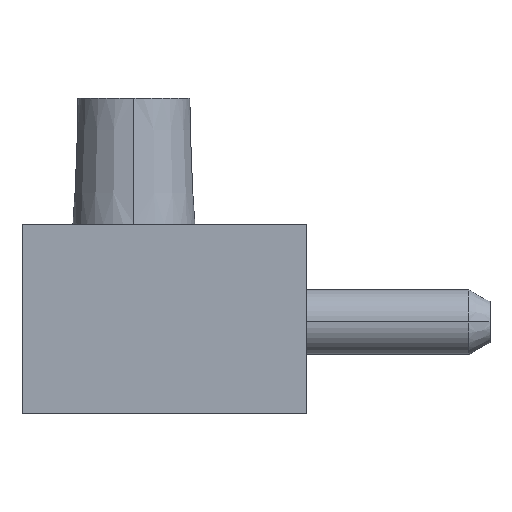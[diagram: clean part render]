
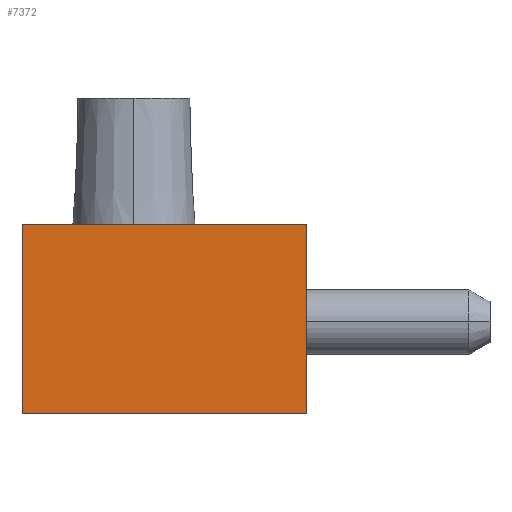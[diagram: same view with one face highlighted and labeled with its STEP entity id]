
A CAD part, top view. The second image highlights one B-rep face of the part: STEP entity #7372.
In plain terms, the highlighted planar face has unit normal (0, 0, 1).
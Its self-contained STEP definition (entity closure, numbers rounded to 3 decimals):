
#904 = EDGE_CURVE ( 'NONE', #946, #908, #3078, .T. ) ;
#908 = VERTEX_POINT ( 'NONE', #3063 ) ;
#946 = VERTEX_POINT ( 'NONE', #3141 ) ;
#1236 = ORIENTED_EDGE ( 'NONE', *, *, #1238, .T. ) ;
#1238 = EDGE_CURVE ( 'NONE', #1240, #946, #3578, .T. ) ;
#1240 = VERTEX_POINT ( 'NONE', #3574 ) ;
#1559 = ORIENTED_EDGE ( 'NONE', *, *, #1836, .T. ) ;
#1836 = EDGE_CURVE ( 'NONE', #7390, #1240, #3961, .T. ) ;
#3063 = CARTESIAN_POINT ( 'NONE',  ( 7., 0., 0. ) ) ;
#3075 = DIRECTION ( 'NONE',  ( 1., 0., 0. ) ) ;
#3076 = VECTOR ( 'NONE', #3075, 1000. ) ;
#3077 = CARTESIAN_POINT ( 'NONE',  ( 0., 0., 0. ) ) ;
#3078 = LINE ( 'NONE', #3077, #3076 ) ;
#3126 = ORIENTED_EDGE ( 'NONE', *, *, #7401, .T. ) ;
#3141 = CARTESIAN_POINT ( 'NONE',  ( -7., 0., 0. ) ) ;
#3574 = CARTESIAN_POINT ( 'NONE',  ( -7., 9.3, 0. ) ) ;
#3575 = DIRECTION ( 'NONE',  ( 0., -1., 0. ) ) ;
#3576 = VECTOR ( 'NONE', #3575, 1000. ) ;
#3577 = CARTESIAN_POINT ( 'NONE',  ( -7., 4.65, 0. ) ) ;
#3578 = LINE ( 'NONE', #3577, #3576 ) ;
#3958 = DIRECTION ( 'NONE',  ( -1., 0., 0. ) ) ;
#3959 = VECTOR ( 'NONE', #3958, 1000. ) ;
#3960 = CARTESIAN_POINT ( 'NONE',  ( 0., 9.3, 0. ) ) ;
#3961 = LINE ( 'NONE', #3960, #3959 ) ;
#5642 = DIRECTION ( 'NONE',  ( 1., 0., 0. ) ) ;
#5643 = DIRECTION ( 'NONE',  ( 0., 0., 1. ) ) ;
#5644 = CARTESIAN_POINT ( 'NONE',  ( -7., 0., 0. ) ) ;
#5645 = AXIS2_PLACEMENT_3D ( 'NONE', #5644, #5643, #5642 ) ;
#5646 = FACE_OUTER_BOUND ( 'NONE', #7370, .T. ) ;
#5651 = PLANE ( 'NONE',  #5645 ) ;
#5684 = CARTESIAN_POINT ( 'NONE',  ( 7., 9.3, 0. ) ) ;
#5720 = DIRECTION ( 'NONE',  ( 0., 1., 0. ) ) ;
#5721 = VECTOR ( 'NONE', #5720, 1000. ) ;
#5722 = CARTESIAN_POINT ( 'NONE',  ( 7., 4.65, 0. ) ) ;
#5723 = LINE ( 'NONE', #5722, #5721 ) ;
#7370 = EDGE_LOOP ( 'NONE', ( #3126, #1559, #1236, #7430 ) ) ;
#7372 = ADVANCED_FACE ( 'NONE', ( #5646 ), #5651, .T. ) ;
#7390 = VERTEX_POINT ( 'NONE', #5684 ) ;
#7401 = EDGE_CURVE ( 'NONE', #908, #7390, #5723, .T. ) ;
#7430 = ORIENTED_EDGE ( 'NONE', *, *, #904, .T. ) ;
